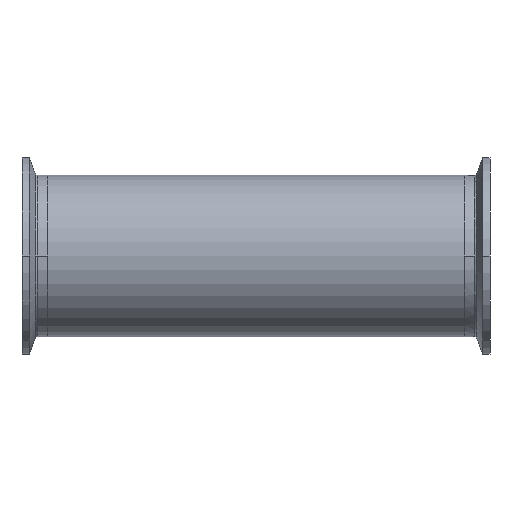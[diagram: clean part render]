
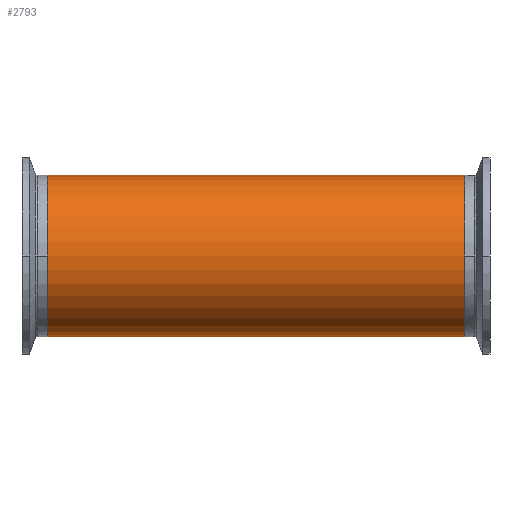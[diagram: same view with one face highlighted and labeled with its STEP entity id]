
A CAD part, front view. The second image highlights one B-rep face of the part: STEP entity #2793.
In plain terms, the highlighted cylindrical face has radius 31.75 mm (diameter 63.5 mm), a partial arc.
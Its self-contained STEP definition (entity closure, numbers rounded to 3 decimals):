
#152 = AXIS2_PLACEMENT_3D ( 'NONE', #3562, #1283, #3936 ) ;
#223 = LINE ( 'NONE', #1513, #4168 ) ;
#906 = CARTESIAN_POINT ( 'NONE',  ( 171.903, 0., -31.75 ) ) ;
#1283 = DIRECTION ( 'NONE',  ( 1., 0., 0. ) ) ;
#1302 = CARTESIAN_POINT ( 'NONE',  ( 82.1, 0., 0. ) ) ;
#1400 = DIRECTION ( 'NONE',  ( -1., 0., 0. ) ) ;
#1513 = CARTESIAN_POINT ( 'NONE',  ( 171.903, 0., 31.75 ) ) ;
#1585 = ORIENTED_EDGE ( 'NONE', *, *, #3552, .T. ) ;
#1699 = FACE_OUTER_BOUND ( 'NONE', #3033, .T. ) ;
#1750 = DIRECTION ( 'NONE',  ( -1., 0., 0. ) ) ;
#1839 = LINE ( 'NONE', #906, #4219 ) ;
#1927 = CARTESIAN_POINT ( 'NONE',  ( 82.1, 0., 31.75 ) ) ;
#2046 = EDGE_CURVE ( 'NONE', #2578, #4130, #2139, .T. ) ;
#2139 = CIRCLE ( 'NONE', #2591, 31.75 ) ;
#2460 = DIRECTION ( 'NONE',  ( -1., 0., 0. ) ) ;
#2578 = VERTEX_POINT ( 'NONE', #4481 ) ;
#2591 = AXIS2_PLACEMENT_3D ( 'NONE', #1302, #1750, #4358 ) ;
#2793 = ADVANCED_FACE ( 'NONE', ( #1699 ), #4456, .T. ) ;
#2800 = AXIS2_PLACEMENT_3D ( 'NONE', #4402, #1400, #4760 ) ;
#2964 = EDGE_CURVE ( 'NONE', #2578, #4181, #1839, .T. ) ;
#3033 = EDGE_LOOP ( 'NONE', ( #4593, #3849, #3195, #1585 ) ) ;
#3195 = ORIENTED_EDGE ( 'NONE', *, *, #3353, .T. ) ;
#3353 = EDGE_CURVE ( 'NONE', #4130, #4371, #223, .T. ) ;
#3552 = EDGE_CURVE ( 'NONE', #4371, #4181, #4454, .T. ) ;
#3562 = CARTESIAN_POINT ( 'NONE',  ( -82.1, 0., 0. ) ) ;
#3849 = ORIENTED_EDGE ( 'NONE', *, *, #2046, .T. ) ;
#3900 = CARTESIAN_POINT ( 'NONE',  ( -82.1, 0., 31.75 ) ) ;
#3936 = DIRECTION ( 'NONE',  ( 0., 0., 1. ) ) ;
#4130 = VERTEX_POINT ( 'NONE', #1927 ) ;
#4168 = VECTOR ( 'NONE', #4866, 1000. ) ;
#4181 = VERTEX_POINT ( 'NONE', #4522 ) ;
#4219 = VECTOR ( 'NONE', #2460, 1000. ) ;
#4358 = DIRECTION ( 'NONE',  ( 0., 0., 1. ) ) ;
#4371 = VERTEX_POINT ( 'NONE', #3900 ) ;
#4402 = CARTESIAN_POINT ( 'NONE',  ( 171.903, 0., 0. ) ) ;
#4454 = CIRCLE ( 'NONE', #152, 31.75 ) ;
#4456 = CYLINDRICAL_SURFACE ( 'NONE', #2800, 31.75 ) ;
#4481 = CARTESIAN_POINT ( 'NONE',  ( 82.1, 0., -31.75 ) ) ;
#4522 = CARTESIAN_POINT ( 'NONE',  ( -82.1, 0., -31.75 ) ) ;
#4593 = ORIENTED_EDGE ( 'NONE', *, *, #2964, .F. ) ;
#4760 = DIRECTION ( 'NONE',  ( 0., 0., 1. ) ) ;
#4866 = DIRECTION ( 'NONE',  ( -1., 0., 0. ) ) ;
